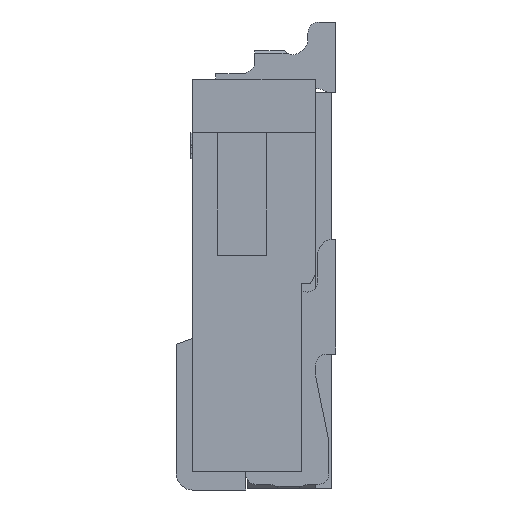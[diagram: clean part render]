
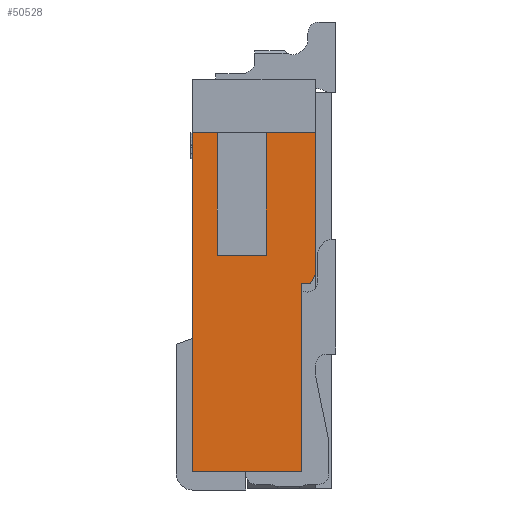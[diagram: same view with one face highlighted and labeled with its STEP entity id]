
A CAD part, left-side view. The second image highlights one B-rep face of the part: STEP entity #50528.
In plain terms, the highlighted planar face has unit normal (-1, 0, 0).
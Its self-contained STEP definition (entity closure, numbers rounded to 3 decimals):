
#272 = CARTESIAN_POINT ( 'NONE',  ( -5.15, 0.85, -0.65 ) ) ;
#509 = CARTESIAN_POINT ( 'NONE',  ( -5.15, -0.05, -0.65 ) ) ;
#1325 = VERTEX_POINT ( 'NONE', #5403 ) ;
#2130 = VERTEX_POINT ( 'NONE', #14619 ) ;
#2787 = EDGE_CURVE ( 'NONE', #15112, #2130, #54032, .T. ) ;
#3576 = LINE ( 'NONE', #20362, #12131 ) ;
#3831 = VERTEX_POINT ( 'NONE', #13086 ) ;
#4101 = VERTEX_POINT ( 'NONE', #51872 ) ;
#4389 = FACE_OUTER_BOUND ( 'NONE', #14292, .T. ) ;
#4603 = LINE ( 'NONE', #38167, #46471 ) ;
#4923 = PLANE ( 'NONE',  #20035 ) ;
#4937 = CARTESIAN_POINT ( 'NONE',  ( -5.15, 0.55, -0.65 ) ) ;
#5150 = CARTESIAN_POINT ( 'NONE',  ( -5.15, -0.65, -2.38 ) ) ;
#5403 = CARTESIAN_POINT ( 'NONE',  ( -5.15, -0.05, -0.65 ) ) ;
#6070 = DIRECTION ( 'NONE',  ( 0., 0., 1. ) ) ;
#7484 = DIRECTION ( 'NONE',  ( 0., 1., 0. ) ) ;
#7965 = LINE ( 'NONE', #49250, #47418 ) ;
#8511 = CARTESIAN_POINT ( 'NONE',  ( -5.15, 0.1, -2.72 ) ) ;
#8527 = DIRECTION ( 'NONE',  ( 0., 0., -1. ) ) ;
#10593 = VERTEX_POINT ( 'NONE', #41967 ) ;
#11075 = ORIENTED_EDGE ( 'NONE', *, *, #34676, .T. ) ;
#11558 = DIRECTION ( 'NONE',  ( 0., -1., 0. ) ) ;
#12131 = VECTOR ( 'NONE', #11558, 1000. ) ;
#12196 = DIRECTION ( 'NONE',  ( 0., -1., 0. ) ) ;
#13086 = CARTESIAN_POINT ( 'NONE',  ( -5.15, 0.85, -0.65 ) ) ;
#14292 = EDGE_LOOP ( 'NONE', ( #11075, #36676, #17189, #22717, #15866, #45308, #35410, #39951, #14992, #33898, #44840 ) ) ;
#14619 = CARTESIAN_POINT ( 'NONE',  ( -5.15, -0.05, -2.15 ) ) ;
#14992 = ORIENTED_EDGE ( 'NONE', *, *, #24522, .T. ) ;
#15075 = CARTESIAN_POINT ( 'NONE',  ( -5.15, -0.59, -2.5 ) ) ;
#15112 = VERTEX_POINT ( 'NONE', #36840 ) ;
#15220 = EDGE_CURVE ( 'NONE', #1325, #2130, #29430, .T. ) ;
#15858 = DIRECTION ( 'NONE',  ( 0., 1., 0. ) ) ;
#15866 = ORIENTED_EDGE ( 'NONE', *, *, #40752, .T. ) ;
#17189 = ORIENTED_EDGE ( 'NONE', *, *, #2787, .F. ) ;
#17461 = LINE ( 'NONE', #34245, #32465 ) ;
#20035 = AXIS2_PLACEMENT_3D ( 'NONE', #8511, #34097, #21712 ) ;
#20362 = CARTESIAN_POINT ( 'NONE',  ( -5.15, 0.85, -4.79 ) ) ;
#21048 = DIRECTION ( 'NONE',  ( 0., 0., 1. ) ) ;
#21712 = DIRECTION ( 'NONE',  ( 0., 1., 0. ) ) ;
#21979 = VERTEX_POINT ( 'NONE', #43564 ) ;
#22717 = ORIENTED_EDGE ( 'NONE', *, *, #50383, .T. ) ;
#23743 = VECTOR ( 'NONE', #8527, 1000. ) ;
#24066 = EDGE_CURVE ( 'NONE', #43711, #21979, #3576, .T. ) ;
#24522 = EDGE_CURVE ( 'NONE', #4101, #32865, #4603, .T. ) ;
#24672 = CARTESIAN_POINT ( 'NONE',  ( -5.15, -0.65, -0.65 ) ) ;
#26685 = VECTOR ( 'NONE', #12196, 1000. ) ;
#29430 = LINE ( 'NONE', #509, #30084 ) ;
#30084 = VECTOR ( 'NONE', #41499, 1000. ) ;
#32465 = VECTOR ( 'NONE', #21048, 1000. ) ;
#32497 = EDGE_CURVE ( 'NONE', #21979, #4101, #52304, .T. ) ;
#32648 = LINE ( 'NONE', #49413, #49108 ) ;
#32740 = VERTEX_POINT ( 'NONE', #4937 ) ;
#32865 = VERTEX_POINT ( 'NONE', #15075 ) ;
#33205 = VERTEX_POINT ( 'NONE', #5150 ) ;
#33898 = ORIENTED_EDGE ( 'NONE', *, *, #49021, .T. ) ;
#34097 = DIRECTION ( 'NONE',  ( 1., 0., 0. ) ) ;
#34245 = CARTESIAN_POINT ( 'NONE',  ( -5.15, -0.65, -2.38 ) ) ;
#34676 = EDGE_CURVE ( 'NONE', #10593, #1325, #45826, .T. ) ;
#35410 = ORIENTED_EDGE ( 'NONE', *, *, #24066, .T. ) ;
#36495 = DIRECTION ( 'NONE',  ( 0., -0.447, 0.894 ) ) ;
#36676 = ORIENTED_EDGE ( 'NONE', *, *, #15220, .T. ) ;
#36840 = CARTESIAN_POINT ( 'NONE',  ( -5.15, 0.55, -2.15 ) ) ;
#37149 = LINE ( 'NONE', #272, #23743 ) ;
#37787 = CARTESIAN_POINT ( 'NONE',  ( -5.15, 0.55, -2.15 ) ) ;
#38167 = CARTESIAN_POINT ( 'NONE',  ( -5.15, -0.48, -2.5 ) ) ;
#39951 = ORIENTED_EDGE ( 'NONE', *, *, #32497, .T. ) ;
#40238 = LINE ( 'NONE', #48228, #50273 ) ;
#40752 = EDGE_CURVE ( 'NONE', #32740, #3831, #40238, .T. ) ;
#41499 = DIRECTION ( 'NONE',  ( 0., 0., -1. ) ) ;
#41967 = CARTESIAN_POINT ( 'NONE',  ( -5.15, -0.65, -0.65 ) ) ;
#42697 = CARTESIAN_POINT ( 'NONE',  ( -5.15, 0.85, -4.79 ) ) ;
#43564 = CARTESIAN_POINT ( 'NONE',  ( -5.15, -0.48, -4.79 ) ) ;
#43711 = VERTEX_POINT ( 'NONE', #42697 ) ;
#44840 = ORIENTED_EDGE ( 'NONE', *, *, #52383, .T. ) ;
#45308 = ORIENTED_EDGE ( 'NONE', *, *, #53139, .T. ) ;
#45652 = DIRECTION ( 'NONE',  ( 0., 0., 1. ) ) ;
#45826 = LINE ( 'NONE', #24672, #51950 ) ;
#46471 = VECTOR ( 'NONE', #51375, 1000. ) ;
#47397 = VECTOR ( 'NONE', #6070, 1000. ) ;
#47418 = VECTOR ( 'NONE', #45652, 1000. ) ;
#48228 = CARTESIAN_POINT ( 'NONE',  ( -5.15, 0.55, -0.65 ) ) ;
#49021 = EDGE_CURVE ( 'NONE', #32865, #33205, #32648, .T. ) ;
#49108 = VECTOR ( 'NONE', #36495, 1000. ) ;
#49250 = CARTESIAN_POINT ( 'NONE',  ( -5.15, 0.55, -2.15 ) ) ;
#49413 = CARTESIAN_POINT ( 'NONE',  ( -5.15, -0.59, -2.5 ) ) ;
#50273 = VECTOR ( 'NONE', #7484, 1000. ) ;
#50383 = EDGE_CURVE ( 'NONE', #15112, #32740, #7965, .T. ) ;
#50528 = ADVANCED_FACE ( 'NONE', ( #4389 ), #4923, .F. ) ;
#51375 = DIRECTION ( 'NONE',  ( 0., -1., 0. ) ) ;
#51872 = CARTESIAN_POINT ( 'NONE',  ( -5.15, -0.48, -2.5 ) ) ;
#51950 = VECTOR ( 'NONE', #15858, 1000. ) ;
#52304 = LINE ( 'NONE', #52849, #47397 ) ;
#52383 = EDGE_CURVE ( 'NONE', #33205, #10593, #17461, .T. ) ;
#52849 = CARTESIAN_POINT ( 'NONE',  ( -5.15, -0.48, -4.79 ) ) ;
#53139 = EDGE_CURVE ( 'NONE', #3831, #43711, #37149, .T. ) ;
#54032 = LINE ( 'NONE', #37787, #26685 ) ;
